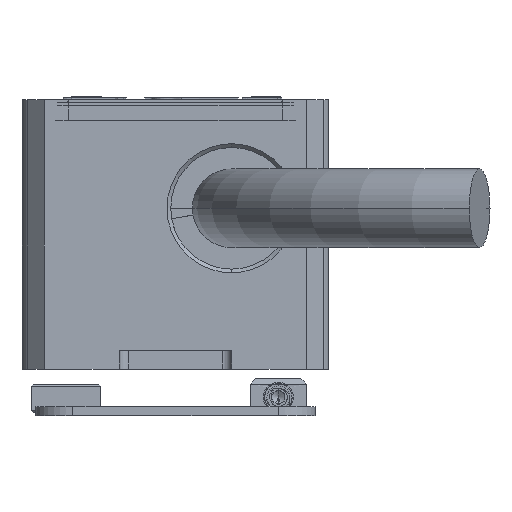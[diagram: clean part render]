
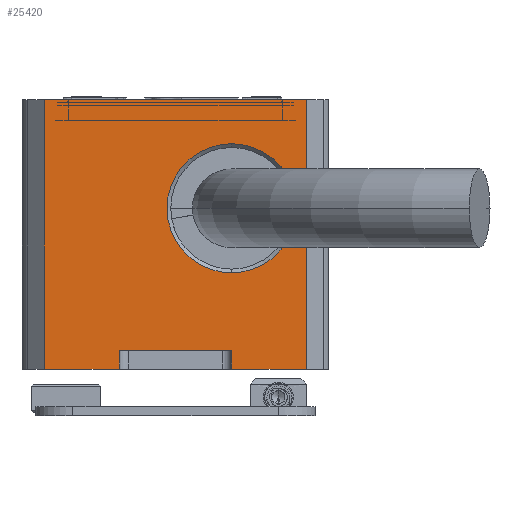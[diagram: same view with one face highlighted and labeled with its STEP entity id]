
A CAD part, left-side view. The second image highlights one B-rep face of the part: STEP entity #25420.
In plain terms, the highlighted planar face has unit normal (-1, 0, 0).
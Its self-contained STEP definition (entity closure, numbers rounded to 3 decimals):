
#318 = CARTESIAN_POINT ( 'NONE',  ( -18., -3., 5.15 ) ) ;
#684 = CIRCLE ( 'NONE', #28968, 3.45 ) ;
#2714 = ORIENTED_EDGE ( 'NONE', *, *, #13566, .T. ) ;
#5286 = DIRECTION ( 'NONE',  ( 0., 0., 1. ) ) ;
#6848 = DIRECTION ( 'NONE',  ( 0., 0., -1. ) ) ;
#7947 = PLANE ( 'NONE',  #21766 ) ;
#8281 = CARTESIAN_POINT ( 'NONE',  ( -18., -3., 0. ) ) ;
#9994 = DIRECTION ( 'NONE',  ( 1., 0., 0. ) ) ;
#10215 = CARTESIAN_POINT ( 'NONE',  ( -18., -7., 14.4 ) ) ;
#10478 = DIRECTION ( 'NONE',  ( 0., -1., 0. ) ) ;
#10792 = VECTOR ( 'NONE', #32555, 1000. ) ;
#11029 = VECTOR ( 'NONE', #15621, 1000. ) ;
#11317 = VERTEX_POINT ( 'NONE', #8281 ) ;
#11487 = CARTESIAN_POINT ( 'NONE',  ( -18., -8.2, 0. ) ) ;
#11692 = CARTESIAN_POINT ( 'NONE',  ( -18., -3., 1. ) ) ;
#11799 = LINE ( 'NONE', #11487, #10792 ) ;
#11937 = VECTOR ( 'NONE', #13011, 1000. ) ;
#12687 = FACE_OUTER_BOUND ( 'NONE', #43480, .T. ) ;
#13011 = DIRECTION ( 'NONE',  ( 0., 0., -1. ) ) ;
#13566 = EDGE_CURVE ( 'NONE', #14402, #41808, #44197, .T. ) ;
#14059 = CARTESIAN_POINT ( 'NONE',  ( -18., 3., 0. ) ) ;
#14402 = VERTEX_POINT ( 'NONE', #26871 ) ;
#14663 = EDGE_CURVE ( 'NONE', #11317, #41387, #20673, .T. ) ;
#15621 = DIRECTION ( 'NONE',  ( 0., -1., 0. ) ) ;
#15794 = DIRECTION ( 'NONE',  ( 0., 0., 1. ) ) ;
#15948 = CARTESIAN_POINT ( 'NONE',  ( -18., -8.2, 14.4 ) ) ;
#16943 = VECTOR ( 'NONE', #15794, 1000. ) ;
#18067 = CARTESIAN_POINT ( 'NONE',  ( -18., -3., 12.05 ) ) ;
#18273 = VERTEX_POINT ( 'NONE', #32280 ) ;
#18698 = VECTOR ( 'NONE', #5286, 1000. ) ;
#20673 = LINE ( 'NONE', #57422, #47879 ) ;
#21404 = CARTESIAN_POINT ( 'NONE',  ( -18., -7., 0. ) ) ;
#21766 = AXIS2_PLACEMENT_3D ( 'NONE', #39568, #60661, #59646 ) ;
#23541 = CARTESIAN_POINT ( 'NONE',  ( -18., 7., 14.4 ) ) ;
#23549 = ORIENTED_EDGE ( 'NONE', *, *, #38052, .T. ) ;
#24774 = CARTESIAN_POINT ( 'NONE',  ( -18., 3., 1. ) ) ;
#25420 = ADVANCED_FACE ( 'NONE', ( #49763, #12687 ), #7947, .F. ) ;
#25878 = EDGE_LOOP ( 'NONE', ( #23549, #43551 ) ) ;
#26871 = CARTESIAN_POINT ( 'NONE',  ( -18., 3., 1. ) ) ;
#28545 = VERTEX_POINT ( 'NONE', #23541 ) ;
#28968 = AXIS2_PLACEMENT_3D ( 'NONE', #30746, #9994, #51487 ) ;
#29785 = CARTESIAN_POINT ( 'NONE',  ( -18., 3., -0.5 ) ) ;
#30746 = CARTESIAN_POINT ( 'NONE',  ( -18., -3., 8.6 ) ) ;
#30926 = LINE ( 'NONE', #15948, #11029 ) ;
#32044 = CARTESIAN_POINT ( 'NONE',  ( -18., -3., 8.6 ) ) ;
#32280 = CARTESIAN_POINT ( 'NONE',  ( -18., 7., 0. ) ) ;
#32555 = DIRECTION ( 'NONE',  ( 0., -1., 0. ) ) ;
#34534 = DIRECTION ( 'NONE',  ( 0., 0., -1. ) ) ;
#35532 = CARTESIAN_POINT ( 'NONE',  ( -18., -7., 14.4 ) ) ;
#38052 = EDGE_CURVE ( 'NONE', #42318, #46954, #684, .T. ) ;
#38518 = ORIENTED_EDGE ( 'NONE', *, *, #65197, .F. ) ;
#39084 = DIRECTION ( 'NONE',  ( 0., -1., 0. ) ) ;
#39442 = EDGE_CURVE ( 'NONE', #41387, #56089, #45745, .T. ) ;
#39568 = CARTESIAN_POINT ( 'NONE',  ( -18., -8.2, 14.4 ) ) ;
#40391 = ORIENTED_EDGE ( 'NONE', *, *, #39442, .T. ) ;
#41387 = VERTEX_POINT ( 'NONE', #21404 ) ;
#41808 = VERTEX_POINT ( 'NONE', #11692 ) ;
#42318 = VERTEX_POINT ( 'NONE', #18067 ) ;
#42589 = DIRECTION ( 'NONE',  ( 1., 0., 0. ) ) ;
#43480 = EDGE_LOOP ( 'NONE', ( #65362, #2714, #51514, #66073, #40391, #38518, #66634, #51923 ) ) ;
#43551 = ORIENTED_EDGE ( 'NONE', *, *, #55836, .T. ) ;
#43995 = LINE ( 'NONE', #60319, #11937 ) ;
#44197 = LINE ( 'NONE', #24774, #53225 ) ;
#45364 = CIRCLE ( 'NONE', #63882, 3.45 ) ;
#45745 = LINE ( 'NONE', #35532, #16943 ) ;
#46954 = VERTEX_POINT ( 'NONE', #318 ) ;
#47337 = EDGE_CURVE ( 'NONE', #14402, #58380, #61430, .T. ) ;
#47879 = VECTOR ( 'NONE', #10478, 1000. ) ;
#49763 = FACE_BOUND ( 'NONE', #25878, .T. ) ;
#51487 = DIRECTION ( 'NONE',  ( 0., 0., -1. ) ) ;
#51514 = ORIENTED_EDGE ( 'NONE', *, *, #64023, .F. ) ;
#51923 = ORIENTED_EDGE ( 'NONE', *, *, #58490, .T. ) ;
#53216 = VECTOR ( 'NONE', #34534, 1000. ) ;
#53225 = VECTOR ( 'NONE', #39084, 1000. ) ;
#55836 = EDGE_CURVE ( 'NONE', #46954, #42318, #45364, .T. ) ;
#56089 = VERTEX_POINT ( 'NONE', #10215 ) ;
#57014 = CARTESIAN_POINT ( 'NONE',  ( -18., -3., -0.5 ) ) ;
#57422 = CARTESIAN_POINT ( 'NONE',  ( -18., -8.2, 0. ) ) ;
#58380 = VERTEX_POINT ( 'NONE', #14059 ) ;
#58490 = EDGE_CURVE ( 'NONE', #18273, #58380, #11799, .T. ) ;
#59646 = DIRECTION ( 'NONE',  ( 0., 0., -1. ) ) ;
#60111 = EDGE_CURVE ( 'NONE', #28545, #18273, #43995, .T. ) ;
#60319 = CARTESIAN_POINT ( 'NONE',  ( -18., 7., 14.4 ) ) ;
#60661 = DIRECTION ( 'NONE',  ( 1., 0., 0. ) ) ;
#61430 = LINE ( 'NONE', #29785, #53216 ) ;
#62140 = LINE ( 'NONE', #57014, #18698 ) ;
#63882 = AXIS2_PLACEMENT_3D ( 'NONE', #32044, #42589, #6848 ) ;
#64023 = EDGE_CURVE ( 'NONE', #11317, #41808, #62140, .T. ) ;
#65197 = EDGE_CURVE ( 'NONE', #28545, #56089, #30926, .T. ) ;
#65362 = ORIENTED_EDGE ( 'NONE', *, *, #47337, .F. ) ;
#66073 = ORIENTED_EDGE ( 'NONE', *, *, #14663, .T. ) ;
#66634 = ORIENTED_EDGE ( 'NONE', *, *, #60111, .T. ) ;
